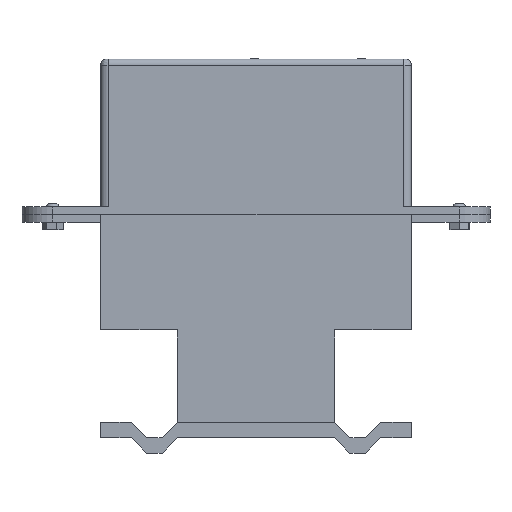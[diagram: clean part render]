
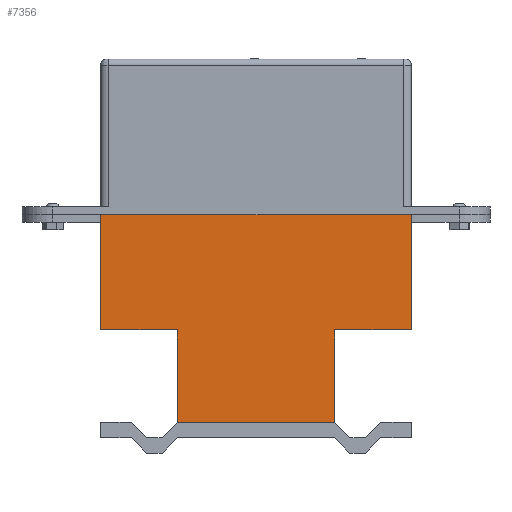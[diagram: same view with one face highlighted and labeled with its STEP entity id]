
A CAD part, left-side view. The second image highlights one B-rep face of the part: STEP entity #7356.
In plain terms, the highlighted planar face has unit normal (-1, 0, 0).
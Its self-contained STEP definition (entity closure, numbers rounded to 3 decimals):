
#456=PLANE('',#7771);
#1057=LINE('',#12977,#1821);
#1067=LINE('',#12996,#1831);
#1068=LINE('',#12999,#1832);
#1069=LINE('',#13001,#1833);
#1070=LINE('',#13003,#1834);
#1071=LINE('',#13005,#1835);
#1072=LINE('',#13007,#1836);
#1073=LINE('',#13008,#1837);
#1821=VECTOR('',#9014,10.);
#1831=VECTOR('',#9028,10.);
#1832=VECTOR('',#9031,10.);
#1833=VECTOR('',#9032,10.);
#1834=VECTOR('',#9033,10.);
#1835=VECTOR('',#9034,10.);
#1836=VECTOR('',#9035,10.);
#1837=VECTOR('',#9036,10.);
#2426=FACE_OUTER_BOUND('',#2854,.T.);
#2854=EDGE_LOOP('',(#6413,#6414,#6415,#6416,#6417,#6418,#6419,#6420));
#3591=VERTEX_POINT('',#12974);
#3592=VERTEX_POINT('',#12976);
#3599=VERTEX_POINT('',#12994);
#3600=VERTEX_POINT('',#12998);
#3601=VERTEX_POINT('',#13000);
#3602=VERTEX_POINT('',#13002);
#3603=VERTEX_POINT('',#13004);
#3604=VERTEX_POINT('',#13006);
#4557=EDGE_CURVE('',#3591,#3592,#1057,.T.);
#4567=EDGE_CURVE('',#3591,#3599,#1067,.T.);
#4568=EDGE_CURVE('',#3599,#3600,#1068,.T.);
#4569=EDGE_CURVE('',#3601,#3600,#1069,.T.);
#4570=EDGE_CURVE('',#3601,#3602,#1070,.T.);
#4571=EDGE_CURVE('',#3602,#3603,#1071,.T.);
#4572=EDGE_CURVE('',#3603,#3604,#1072,.T.);
#4573=EDGE_CURVE('',#3604,#3592,#1073,.T.);
#6413=ORIENTED_EDGE('',*,*,#4557,.F.);
#6414=ORIENTED_EDGE('',*,*,#4567,.T.);
#6415=ORIENTED_EDGE('',*,*,#4568,.T.);
#6416=ORIENTED_EDGE('',*,*,#4569,.F.);
#6417=ORIENTED_EDGE('',*,*,#4570,.T.);
#6418=ORIENTED_EDGE('',*,*,#4571,.T.);
#6419=ORIENTED_EDGE('',*,*,#4572,.T.);
#6420=ORIENTED_EDGE('',*,*,#4573,.T.);
#7356=ADVANCED_FACE('',(#2426),#456,.T.);
#7771=AXIS2_PLACEMENT_3D('',#12997,#9029,#9030);
#9014=DIRECTION('',(0.,1.,0.));
#9028=DIRECTION('',(0.,0.,1.));
#9029=DIRECTION('center_axis',(-1.,0.,0.));
#9030=DIRECTION('ref_axis',(0.,1.,0.));
#9031=DIRECTION('',(0.,-1.,0.));
#9032=DIRECTION('',(0.,0.,-1.));
#9033=DIRECTION('',(0.,1.,0.));
#9034=DIRECTION('',(0.,0.,-1.));
#9035=DIRECTION('',(0.,-1.,0.));
#9036=DIRECTION('',(0.,0.,-1.));
#12974=CARTESIAN_POINT('',(-10.,50.,-135.));
#12976=CARTESIAN_POINT('',(-10.,152.,-135.));
#12977=CARTESIAN_POINT('',(-10.,0.,-135.));
#12994=CARTESIAN_POINT('',(-10.,50.,-75.));
#12996=CARTESIAN_POINT('',(-10.,50.,-67.5));
#12997=CARTESIAN_POINT('Origin',(-10.,0.,0.));
#12998=CARTESIAN_POINT('',(-10.,0.,-75.));
#12999=CARTESIAN_POINT('',(-10.,25.,-75.));
#13000=CARTESIAN_POINT('',(-10.,0.,0.));
#13001=CARTESIAN_POINT('',(-10.,0.,0.));
#13002=CARTESIAN_POINT('',(-10.,202.,0.));
#13003=CARTESIAN_POINT('',(-10.,0.,0.));
#13004=CARTESIAN_POINT('',(-10.,202.,-75.));
#13005=CARTESIAN_POINT('',(-10.,202.,0.));
#13006=CARTESIAN_POINT('',(-10.,152.,-75.));
#13007=CARTESIAN_POINT('',(-10.,101.,-75.));
#13008=CARTESIAN_POINT('',(-10.,152.,-37.5));
